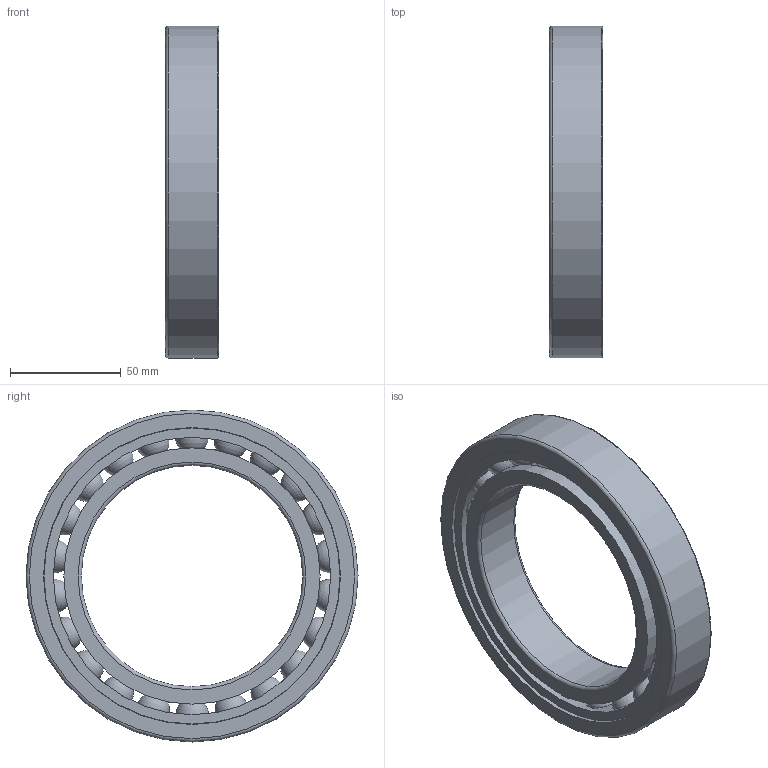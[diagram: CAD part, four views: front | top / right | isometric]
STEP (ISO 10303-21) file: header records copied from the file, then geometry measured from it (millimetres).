
FILE_DESCRIPTION(/* description */ (''),/* implementation_level */ '2;1');
FILE_NAME(/* name */ 'S_6020_TA.step',/* time_stamp */ '2013-03-06T14:46:10+01:00',/* author */ ('Marian'),/* organization */ ('GMN'),/* preprocessor_version */ 'ST-DEVELOPER v11',/* originating_system */ 'SIEMENS UGS NX 6.0',/* authorisation */ '');
FILE_SCHEMA (('CONFIG_CONTROL_DESIGN'));
Length unit declared in the file: millimetre
Products named in the file (1): S_6020_TA
Bounding box: 24 x 150 x 150 mm (x, y, z)
Volume: 177563.4 mm3; surface area: 81903.9 mm2
Topology: 25 solids, 25 shells, 64 faces, 170 edges, 110 vertices
Faces by surface type: cylinder 29, sphere 22, torus 6, plane 6, cone 1
Full cylindrical faces by diameter (mm): 15.281 x22, 100 x1, 115.8 x2, 125.301 x1, 133.8 x1, 134.2 x1, 150 x1
Entity records: 2126 total; most frequent: CARTESIAN_POINT 963, DIRECTION 170, FACE_BOUND 150, EDGE_LOOP 128, ORIENTED_EDGE 128, VERTEX_POINT 86, AXIS2_PLACEMENT_3D 85, EDGE_CURVE 64
